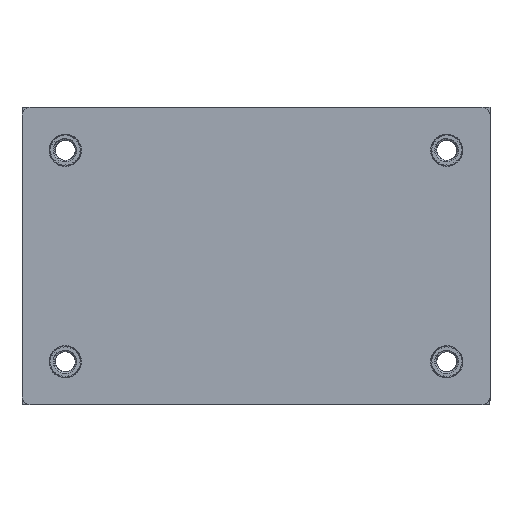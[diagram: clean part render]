
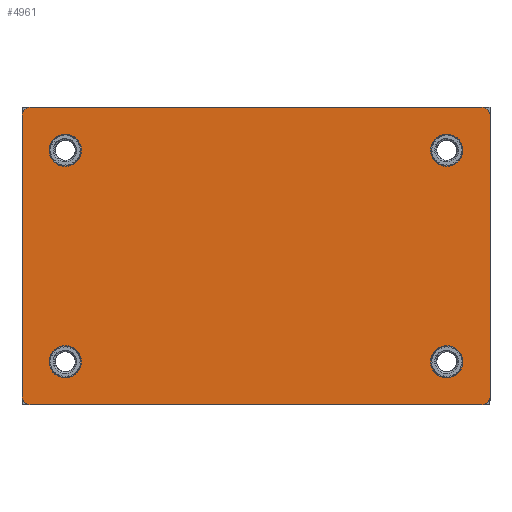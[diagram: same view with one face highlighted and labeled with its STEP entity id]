
A CAD part, front view. The second image highlights one B-rep face of the part: STEP entity #4961.
In plain terms, the highlighted planar face has unit normal (0, -1, 0).
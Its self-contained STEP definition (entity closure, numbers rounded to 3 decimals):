
#542 = CARTESIAN_POINT ( 'NONE',  ( 28.95, -1.12, 17.395 ) ) ;
#1179 = DIRECTION ( 'NONE',  ( 0., -1., 0. ) ) ;
#1501 = AXIS2_PLACEMENT_3D ( 'NONE', #44150, #37767, #2993 ) ;
#1557 = CARTESIAN_POINT ( 'NONE',  ( 23.6, -1.12, -13.085 ) ) ;
#2126 = DIRECTION ( 'NONE',  ( 0., 1., 0. ) ) ;
#2315 = EDGE_LOOP ( 'NONE', ( #32853 ) ) ;
#2412 = CARTESIAN_POINT ( 'NONE',  ( -28.95, -1.12, 18.395 ) ) ;
#2993 = DIRECTION ( 'NONE',  ( 0., 0., 1. ) ) ;
#3032 = DIRECTION ( 'NONE',  ( 0., 0., -1. ) ) ;
#3383 = CARTESIAN_POINT ( 'NONE',  ( -27.95, -1.12, 18.395 ) ) ;
#3460 = VERTEX_POINT ( 'NONE', #13984 ) ;
#3839 = CARTESIAN_POINT ( 'NONE',  ( 27.95, -1.12, -17.405 ) ) ;
#4463 = CARTESIAN_POINT ( 'NONE',  ( -23.6, -1.12, -13.085 ) ) ;
#4571 = ORIENTED_EDGE ( 'NONE', *, *, #23083, .F. ) ;
#4723 = CARTESIAN_POINT ( 'NONE',  ( -28.95, -1.12, 17.395 ) ) ;
#4738 = EDGE_CURVE ( 'NONE', #39266, #41782, #24895, .T. ) ;
#4796 = DIRECTION ( 'NONE',  ( -1., 0., 0. ) ) ;
#4961 = ADVANCED_FACE ( 'NONE', ( #36446, #33263, #40093, #12351, #15537 ), #22370, .F. ) ;
#5058 = EDGE_CURVE ( 'NONE', #35984, #29115, #40554, .T. ) ;
#5268 = AXIS2_PLACEMENT_3D ( 'NONE', #28732, #38541, #17628 ) ;
#5369 = CIRCLE ( 'NONE', #40997, 2. ) ;
#6286 = DIRECTION ( 'NONE',  ( 1., 0., 0. ) ) ;
#6378 = ORIENTED_EDGE ( 'NONE', *, *, #27437, .T. ) ;
#6894 = VERTEX_POINT ( 'NONE', #44885 ) ;
#6957 = CIRCLE ( 'NONE', #27288, 2. ) ;
#7790 = CARTESIAN_POINT ( 'NONE',  ( 23.6, -1.12, -11.085 ) ) ;
#7884 = ORIENTED_EDGE ( 'NONE', *, *, #5058, .F. ) ;
#7966 = CARTESIAN_POINT ( 'NONE',  ( 27.95, -1.12, -18.405 ) ) ;
#8152 = DIRECTION ( 'NONE',  ( 0., 0., 1. ) ) ;
#8934 = CARTESIAN_POINT ( 'NONE',  ( -23.6, -1.12, 13.075 ) ) ;
#9225 = AXIS2_PLACEMENT_3D ( 'NONE', #3839, #35437, #9415 ) ;
#9398 = EDGE_CURVE ( 'NONE', #35984, #43629, #17913, .T. ) ;
#9415 = DIRECTION ( 'NONE',  ( 0., 0., 1. ) ) ;
#9993 = VECTOR ( 'NONE', #35965, 1000. ) ;
#10526 = VECTOR ( 'NONE', #3032, 1000. ) ;
#10699 = ORIENTED_EDGE ( 'NONE', *, *, #30934, .F. ) ;
#12351 = FACE_BOUND ( 'NONE', #41399, .T. ) ;
#13448 = CARTESIAN_POINT ( 'NONE',  ( 28.95, -1.12, -17.405 ) ) ;
#13814 = ORIENTED_EDGE ( 'NONE', *, *, #35296, .T. ) ;
#13984 = CARTESIAN_POINT ( 'NONE',  ( -27.95, -1.12, -18.405 ) ) ;
#15060 = CARTESIAN_POINT ( 'NONE',  ( -28.95, -1.12, -18.405 ) ) ;
#15537 = FACE_BOUND ( 'NONE', #2315, .T. ) ;
#15991 = DIRECTION ( 'NONE',  ( 0., 0., 1. ) ) ;
#16156 = VECTOR ( 'NONE', #6286, 1000. ) ;
#16192 = ORIENTED_EDGE ( 'NONE', *, *, #22705, .T. ) ;
#16537 = ORIENTED_EDGE ( 'NONE', *, *, #17065, .F. ) ;
#17065 = EDGE_CURVE ( 'NONE', #39266, #43629, #34474, .T. ) ;
#17628 = DIRECTION ( 'NONE',  ( 0., 0., 1. ) ) ;
#17807 = CARTESIAN_POINT ( 'NONE',  ( -23.6, -1.12, 15.075 ) ) ;
#17843 = EDGE_LOOP ( 'NONE', ( #30695 ) ) ;
#17913 = CIRCLE ( 'NONE', #40423, 1. ) ;
#18196 = EDGE_CURVE ( 'NONE', #6894, #6894, #36496, .T. ) ;
#18886 = EDGE_LOOP ( 'NONE', ( #4571, #6378, #10699, #16192, #7884, #38174, #16537, #42309 ) ) ;
#18926 = LINE ( 'NONE', #15060, #9993 ) ;
#18997 = DIRECTION ( 'NONE',  ( 0., 1., 0. ) ) ;
#19850 = AXIS2_PLACEMENT_3D ( 'NONE', #24470, #40850, #44259 ) ;
#19975 = EDGE_CURVE ( 'NONE', #44422, #44422, #6957, .T. ) ;
#22370 = PLANE ( 'NONE',  #38849 ) ;
#22705 = EDGE_CURVE ( 'NONE', #42437, #29115, #28832, .T. ) ;
#22714 = AXIS2_PLACEMENT_3D ( 'NONE', #24610, #31874, #34611 ) ;
#23083 = EDGE_CURVE ( 'NONE', #26933, #41782, #18926, .T. ) ;
#24470 = CARTESIAN_POINT ( 'NONE',  ( -23.6, -1.12, 13.075 ) ) ;
#24610 = CARTESIAN_POINT ( 'NONE',  ( 23.6, -1.12, 13.075 ) ) ;
#24633 = VERTEX_POINT ( 'NONE', #17807 ) ;
#24895 = CIRCLE ( 'NONE', #5268, 1. ) ;
#26376 = LINE ( 'NONE', #29565, #26510 ) ;
#26510 = VECTOR ( 'NONE', #4796, 1000. ) ;
#26933 = VERTEX_POINT ( 'NONE', #37367 ) ;
#27288 = AXIS2_PLACEMENT_3D ( 'NONE', #4463, #18997, #43109 ) ;
#27437 = EDGE_CURVE ( 'NONE', #26933, #3460, #37059, .T. ) ;
#28732 = CARTESIAN_POINT ( 'NONE',  ( -27.95, -1.12, 17.395 ) ) ;
#28832 = CIRCLE ( 'NONE', #9225, 1. ) ;
#29115 = VERTEX_POINT ( 'NONE', #13448 ) ;
#29528 = EDGE_CURVE ( 'NONE', #38946, #38946, #5369, .T. ) ;
#29565 = CARTESIAN_POINT ( 'NONE',  ( -28.95, -1.12, -18.405 ) ) ;
#30114 = ORIENTED_EDGE ( 'NONE', *, *, #29528, .T. ) ;
#30695 = ORIENTED_EDGE ( 'NONE', *, *, #18196, .T. ) ;
#30934 = EDGE_CURVE ( 'NONE', #42437, #3460, #26376, .T. ) ;
#31874 = DIRECTION ( 'NONE',  ( 0., 1., 0. ) ) ;
#32319 = CARTESIAN_POINT ( 'NONE',  ( 27.95, -1.12, 17.395 ) ) ;
#32853 = ORIENTED_EDGE ( 'NONE', *, *, #19975, .T. ) ;
#33263 = FACE_BOUND ( 'NONE', #42025, .T. ) ;
#34474 = LINE ( 'NONE', #2412, #16156 ) ;
#34611 = DIRECTION ( 'NONE',  ( 0., 0., -1. ) ) ;
#35296 = EDGE_CURVE ( 'NONE', #24633, #24633, #41683, .T. ) ;
#35437 = DIRECTION ( 'NONE',  ( 0., -1., 0. ) ) ;
#35965 = DIRECTION ( 'NONE',  ( 0., 0., 1. ) ) ;
#35984 = VERTEX_POINT ( 'NONE', #542 ) ;
#36446 = FACE_OUTER_BOUND ( 'NONE', #18886, .T. ) ;
#36496 = CIRCLE ( 'NONE', #22714, 2. ) ;
#37059 = CIRCLE ( 'NONE', #1501, 1. ) ;
#37132 = CARTESIAN_POINT ( 'NONE',  ( -23.6, -1.12, -15.085 ) ) ;
#37367 = CARTESIAN_POINT ( 'NONE',  ( -28.95, -1.12, -17.405 ) ) ;
#37767 = DIRECTION ( 'NONE',  ( 0., -1., 0. ) ) ;
#37805 = CARTESIAN_POINT ( 'NONE',  ( 28.95, -1.12, -18.405 ) ) ;
#38174 = ORIENTED_EDGE ( 'NONE', *, *, #9398, .T. ) ;
#38541 = DIRECTION ( 'NONE',  ( 0., -1., 0. ) ) ;
#38849 = AXIS2_PLACEMENT_3D ( 'NONE', #8934, #2126, #15991 ) ;
#38946 = VERTEX_POINT ( 'NONE', #7790 ) ;
#39266 = VERTEX_POINT ( 'NONE', #3383 ) ;
#40046 = DIRECTION ( 'NONE',  ( 0., 0., 1. ) ) ;
#40093 = FACE_BOUND ( 'NONE', #17843, .T. ) ;
#40423 = AXIS2_PLACEMENT_3D ( 'NONE', #32319, #1179, #40046 ) ;
#40554 = LINE ( 'NONE', #37805, #10526 ) ;
#40850 = DIRECTION ( 'NONE',  ( 0., 1., 0. ) ) ;
#40997 = AXIS2_PLACEMENT_3D ( 'NONE', #1557, #42946, #8152 ) ;
#41399 = EDGE_LOOP ( 'NONE', ( #30114 ) ) ;
#41683 = CIRCLE ( 'NONE', #19850, 2. ) ;
#41782 = VERTEX_POINT ( 'NONE', #4723 ) ;
#41978 = CARTESIAN_POINT ( 'NONE',  ( 27.95, -1.12, 18.395 ) ) ;
#42025 = EDGE_LOOP ( 'NONE', ( #13814 ) ) ;
#42309 = ORIENTED_EDGE ( 'NONE', *, *, #4738, .T. ) ;
#42437 = VERTEX_POINT ( 'NONE', #7966 ) ;
#42946 = DIRECTION ( 'NONE',  ( 0., 1., 0. ) ) ;
#43109 = DIRECTION ( 'NONE',  ( 0., 0., -1. ) ) ;
#43629 = VERTEX_POINT ( 'NONE', #41978 ) ;
#44150 = CARTESIAN_POINT ( 'NONE',  ( -27.95, -1.12, -17.405 ) ) ;
#44259 = DIRECTION ( 'NONE',  ( 0., 0., 1. ) ) ;
#44422 = VERTEX_POINT ( 'NONE', #37132 ) ;
#44885 = CARTESIAN_POINT ( 'NONE',  ( 23.6, -1.12, 11.075 ) ) ;
